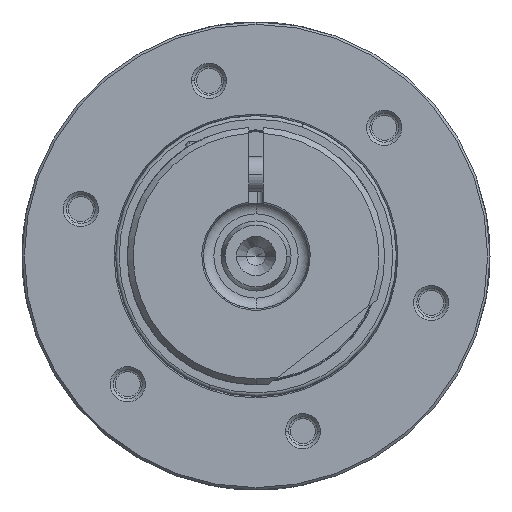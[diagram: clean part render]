
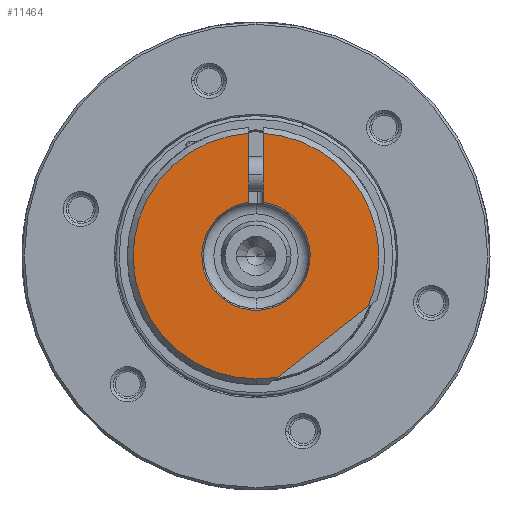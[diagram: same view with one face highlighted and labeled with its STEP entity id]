
A CAD part, left-side view. The second image highlights one B-rep face of the part: STEP entity #11464.
In plain terms, the highlighted planar face has unit normal (-1, 0, 0).
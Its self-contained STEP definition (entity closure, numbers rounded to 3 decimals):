
#510 = ORIENTED_EDGE ( 'NONE', *, *, #19385, .T. ) ;
#876 = DIRECTION ( 'NONE',  ( 0., 0., 1. ) ) ;
#1038 = VERTEX_POINT ( 'NONE', #7852 ) ;
#1103 = CARTESIAN_POINT ( 'NONE',  ( -12., -0.6, 4.595 ) ) ;
#1830 = VERTEX_POINT ( 'NONE', #12305 ) ;
#2215 = EDGE_CURVE ( 'NONE', #1830, #11318, #12732, .T. ) ;
#2262 = LINE ( 'NONE', #4131, #2855 ) ;
#2855 = VECTOR ( 'NONE', #20408, 1000. ) ;
#2930 = DIRECTION ( 'NONE',  ( -1., 0., 0. ) ) ;
#2980 = ORIENTED_EDGE ( 'NONE', *, *, #6621, .F. ) ;
#3180 = DIRECTION ( 'NONE',  ( 1., 0., 0. ) ) ;
#3409 = DIRECTION ( 'NONE',  ( 0., 0., 1. ) ) ;
#3910 = CARTESIAN_POINT ( 'NONE',  ( -12., 0., 0. ) ) ;
#4131 = CARTESIAN_POINT ( 'NONE',  ( -12., -1.096, -10.945 ) ) ;
#4150 = EDGE_CURVE ( 'NONE', #20306, #1038, #8678, .T. ) ;
#4555 = CARTESIAN_POINT ( 'NONE',  ( -12., -0.6, 10.483 ) ) ;
#5700 = AXIS2_PLACEMENT_3D ( 'NONE', #17961, #21347, #8323 ) ;
#6378 = DIRECTION ( 'NONE',  ( 0., 0., -1. ) ) ;
#6621 = EDGE_CURVE ( 'NONE', #1830, #1038, #15413, .T. ) ;
#7017 = PLANE ( 'NONE',  #5700 ) ;
#7171 = EDGE_CURVE ( 'NONE', #18424, #19015, #2262, .T. ) ;
#7203 = ORIENTED_EDGE ( 'NONE', *, *, #16275, .F. ) ;
#7625 = ORIENTED_EDGE ( 'NONE', *, *, #4150, .T. ) ;
#7852 = CARTESIAN_POINT ( 'NONE',  ( -12., 0.6, 4.595 ) ) ;
#7917 = CIRCLE ( 'NONE', #14768, 10.5 ) ;
#8297 = CARTESIAN_POINT ( 'NONE',  ( -12., 0., 0. ) ) ;
#8323 = DIRECTION ( 'NONE',  ( 0., 0., 1. ) ) ;
#8678 = CIRCLE ( 'NONE', #11718, 4.634 ) ;
#9085 = CIRCLE ( 'NONE', #20492, 10.5 ) ;
#9563 = ORIENTED_EDGE ( 'NONE', *, *, #10944, .T. ) ;
#9763 = DIRECTION ( 'NONE',  ( 0., 0., 1. ) ) ;
#10944 = EDGE_CURVE ( 'NONE', #11318, #18424, #7917, .T. ) ;
#11318 = VERTEX_POINT ( 'NONE', #16938 ) ;
#11464 = ADVANCED_FACE ( 'NONE', ( #22860 ), #7017, .T. ) ;
#11538 = CARTESIAN_POINT ( 'NONE',  ( -12., 0.6, 11. ) ) ;
#11718 = AXIS2_PLACEMENT_3D ( 'NONE', #21119, #3180, #3409 ) ;
#12032 = CARTESIAN_POINT ( 'NONE',  ( -12., 0., 0. ) ) ;
#12305 = CARTESIAN_POINT ( 'NONE',  ( -12., 0.6, 10.483 ) ) ;
#12677 = CARTESIAN_POINT ( 'NONE',  ( -12., -9.567, -4.328 ) ) ;
#12732 = CIRCLE ( 'NONE', #16825, 10.5 ) ;
#13221 = LINE ( 'NONE', #20491, #20720 ) ;
#13421 = DIRECTION ( 'NONE',  ( -1., 0., 0. ) ) ;
#13927 = DIRECTION ( 'NONE',  ( 0., 0., 1. ) ) ;
#13998 = EDGE_LOOP ( 'NONE', ( #21219, #510, #7203, #7625, #2980, #21024, #9563 ) ) ;
#14680 = DIRECTION ( 'NONE',  ( -1., 0., 0. ) ) ;
#14768 = AXIS2_PLACEMENT_3D ( 'NONE', #8297, #13421, #876 ) ;
#15413 = LINE ( 'NONE', #11538, #21615 ) ;
#16275 = EDGE_CURVE ( 'NONE', #20306, #17147, #13221, .T. ) ;
#16825 = AXIS2_PLACEMENT_3D ( 'NONE', #3910, #14680, #23420 ) ;
#16938 = CARTESIAN_POINT ( 'NONE',  ( -12., 0., -10.5 ) ) ;
#17147 = VERTEX_POINT ( 'NONE', #4555 ) ;
#17833 = CARTESIAN_POINT ( 'NONE',  ( -12., -1.885, -10.329 ) ) ;
#17961 = CARTESIAN_POINT ( 'NONE',  ( -12., 0., 0. ) ) ;
#18424 = VERTEX_POINT ( 'NONE', #17833 ) ;
#19015 = VERTEX_POINT ( 'NONE', #12677 ) ;
#19385 = EDGE_CURVE ( 'NONE', #19015, #17147, #9085, .T. ) ;
#20306 = VERTEX_POINT ( 'NONE', #1103 ) ;
#20408 = DIRECTION ( 'NONE',  ( 0., -0.788, 0.616 ) ) ;
#20491 = CARTESIAN_POINT ( 'NONE',  ( -12., -0.6, 11. ) ) ;
#20492 = AXIS2_PLACEMENT_3D ( 'NONE', #12032, #2930, #13927 ) ;
#20720 = VECTOR ( 'NONE', #9763, 1000. ) ;
#21024 = ORIENTED_EDGE ( 'NONE', *, *, #2215, .T. ) ;
#21119 = CARTESIAN_POINT ( 'NONE',  ( -12., 0., 0. ) ) ;
#21219 = ORIENTED_EDGE ( 'NONE', *, *, #7171, .T. ) ;
#21347 = DIRECTION ( 'NONE',  ( -1., 0., 0. ) ) ;
#21615 = VECTOR ( 'NONE', #6378, 1000. ) ;
#22860 = FACE_OUTER_BOUND ( 'NONE', #13998, .T. ) ;
#23420 = DIRECTION ( 'NONE',  ( 0., 0., 1. ) ) ;
